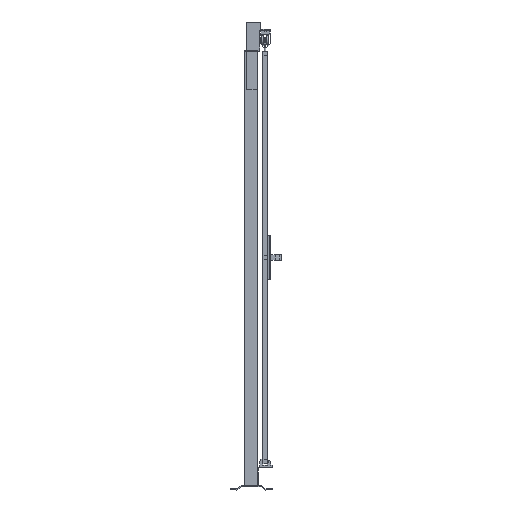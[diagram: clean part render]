
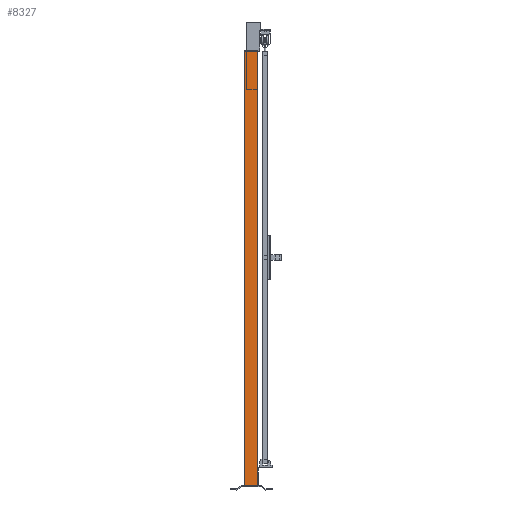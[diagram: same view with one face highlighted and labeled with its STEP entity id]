
A CAD part, left-side view. The second image highlights one B-rep face of the part: STEP entity #8327.
In plain terms, the highlighted planar face has unit normal (-1, 0, 0).
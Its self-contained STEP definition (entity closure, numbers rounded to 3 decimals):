
#873=FACE_OUTER_BOUND('',#1463,.T.);
#1463=EDGE_LOOP('',(#5676,#5677,#5678,#5679));
#2210=VERTEX_POINT('',#17768);
#2211=VERTEX_POINT('',#17770);
#2214=VERTEX_POINT('',#17777);
#2215=VERTEX_POINT('',#17779);
#3534=EDGE_CURVE('',#2210,#2211,#9811,.T.);
#3538=EDGE_CURVE('',#2214,#2215,#9815,.T.);
#3540=EDGE_CURVE('',#2211,#2214,#9817,.T.);
#3542=EDGE_CURVE('',#2210,#2215,#9819,.T.);
#5676=ORIENTED_EDGE('',*,*,#3542,.T.);
#5677=ORIENTED_EDGE('',*,*,#3538,.F.);
#5678=ORIENTED_EDGE('',*,*,#3540,.F.);
#5679=ORIENTED_EDGE('',*,*,#3534,.F.);
#7787=PLANE('',#12404);
#8327=ADVANCED_FACE('',(#873),#7787,.F.);
#9811=LINE('',#17771,#11292);
#9815=LINE('',#17780,#11296);
#9817=LINE('',#17783,#11298);
#9819=LINE('',#17786,#11300);
#11292=VECTOR('',#14142,1.);
#11296=VECTOR('',#14148,1.);
#11298=VECTOR('',#14152,1.);
#11300=VECTOR('',#14156,1.);
#12404=AXIS2_PLACEMENT_3D('',#17785,#14154,#14155);
#14142=DIRECTION('',(0.,-1.,0.));
#14148=DIRECTION('',(0.,1.,0.));
#14152=DIRECTION('',(0.,0.,-1.));
#14154=DIRECTION('center_axis',(1.,0.,0.));
#14155=DIRECTION('ref_axis',(0.,0.,-1.));
#14156=DIRECTION('',(0.,0.,-1.));
#17768=CARTESIAN_POINT('',(-30.,30.,2020.));
#17770=CARTESIAN_POINT('',(-30.,-30.,2020.));
#17771=CARTESIAN_POINT('',(-30.,0.,2020.));
#17777=CARTESIAN_POINT('',(-30.,-30.,20.));
#17779=CARTESIAN_POINT('',(-30.,30.,20.));
#17780=CARTESIAN_POINT('',(-30.,0.,20.));
#17783=CARTESIAN_POINT('',(-30.,-30.,1020.));
#17785=CARTESIAN_POINT('Origin',(-30.,0.,
1020.));
#17786=CARTESIAN_POINT('',(-30.,30.,1020.));
